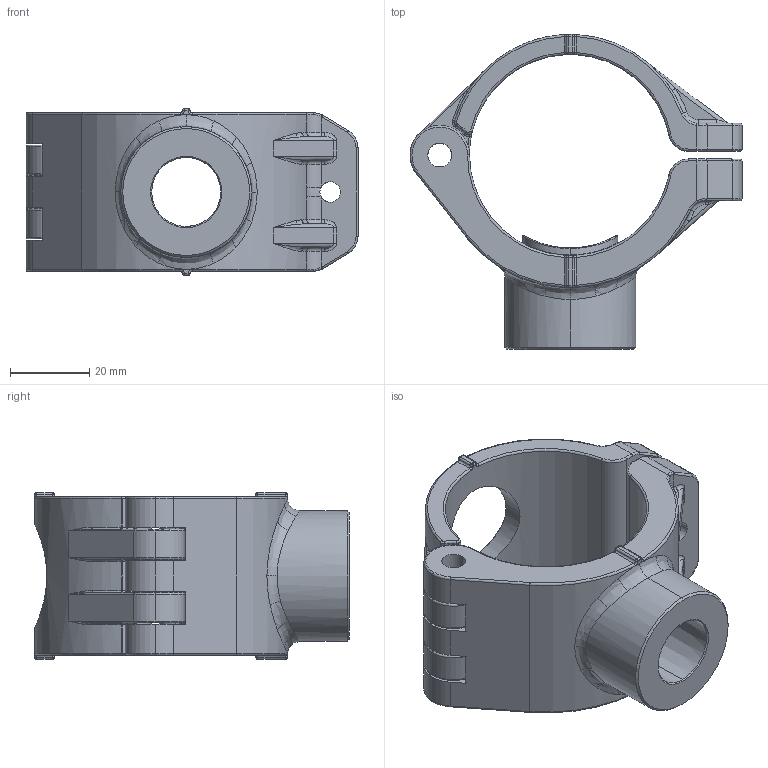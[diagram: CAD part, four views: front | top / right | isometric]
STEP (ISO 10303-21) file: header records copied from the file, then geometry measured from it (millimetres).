
FILE_DESCRIPTION(/* description */ (''),/* implementation_level */ '2;1');
FILE_NAME(/* name */ '5099_stp.stp',/* time_stamp */ '2025-06-20T11:24:16+08:00',/* author */ (''),/* organization */ (''),/* preprocessor_version */ 'ST-DEVELOPER v14',/* originating_system */ 'SIEMENS PLM Software NX 8.0',/* authorisation */ '');
FILE_SCHEMA (('AP203_CONFIGURATION_CONTROLLED_3D_DESIGN_OF_MECHANICAL_PARTS_AND_ASSEMBLIES_MIM_LF { 1 0 10303 403 2 1 2}'));
Length unit declared in the file: millimetre
Products named in the file (1): Admi144825784xah
Bounding box: 83.73 x 79.4 x 42 mm (x, y, z)
Volume: 62883.7 mm3; surface area: 24908.8 mm2
Topology: 2 solids, 7 shells, 402 faces, 1221 edges, 778 vertices
Faces by surface type: cylinder 129, torus 102, bspline 85, plane 46, sphere 30, cone 10
Entity records: 16008 total; most frequent: CARTESIAN_POINT 6079, ORIENTED_EDGE 2326, DIRECTION 1840, EDGE_CURVE 1163, AXIS2_PLACEMENT_3D 814, VERTEX_POINT 778, CIRCLE 496, EDGE_LOOP 423
